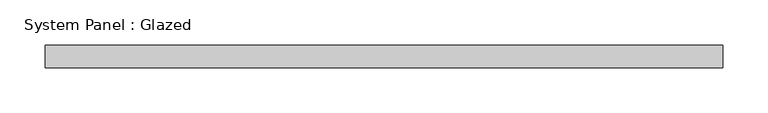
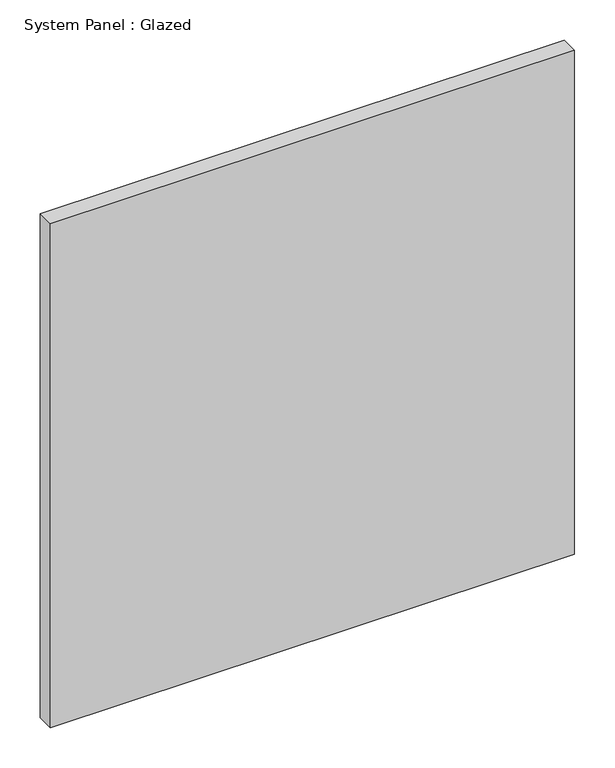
"""IFC4 building model written with IfcOpenShell, lengths in millimetres: plate geometry, System Panel : Glazed."""

from ifc_helpers import new_model, si_unit, origin, origin_with_axes, place, context, project, spatial, polyline, outline, extrude, source, transform, mapped, element, save


def system_panel_glazed_11e41723(model_context):
    return source(origin(), model_context, "Body", "SweptSolid", [
        extrude(outline(polyline([(376.1582035, 24.5), (-376.1582035, 24.5), (-376.1582035, 49.5), (376.1582035, 49.5), (376.1582035, 24.5)])), origin_with_axes(), (0.0, 0.0, 1.0), 765.0),
    ])


if __name__ == "__main__":
    model = new_model("IFC4")
    model_context = context("Model", 3, world=origin())
    ifc_project = project(units=[si_unit("LENGTHUNIT", "METRE", prefix="MILLI")], contexts=[model_context])
    site = spatial("IfcSite", under=ifc_project)
    building = spatial("IfcBuilding", under=site)
    placement = place(None, origin())
    system_panel_glazed_shape = system_panel_glazed_11e41723(model_context)
    element("IfcPlate", 1, ObjectType="System Panel : Glazed", at=placement, inside=building, context=model_context, shape_type="MappedRepresentation", body=[
        mapped(system_panel_glazed_shape, transform((0.0, 0.0, 0.0), x_axis=(1.0, 0.0, 0.0), y_axis=(0.0, 1.0, 0.0), z_axis=(0.0, 0.0, 1.0))),
    ])
    save(model, "model.ifc")
